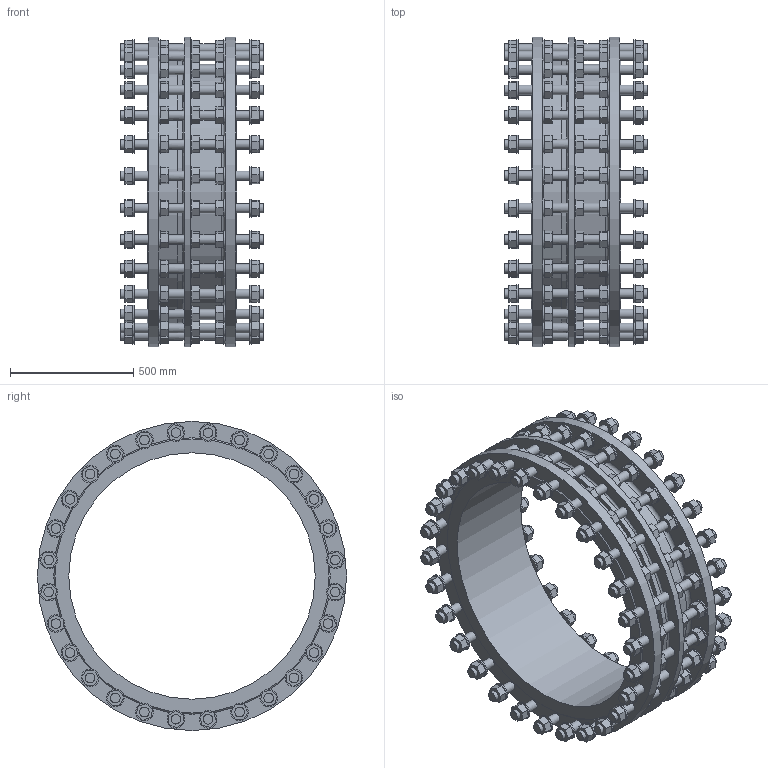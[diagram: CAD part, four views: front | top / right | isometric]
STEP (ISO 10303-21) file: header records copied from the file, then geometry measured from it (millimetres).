
FILE_DESCRIPTION (( 'STEP AP203' ), '1' );
FILE_NAME ('O_265_910_DN1000_1XXXXX00_L=365_REV01.step', '2024-10-11T10:58:10', ( '' ), ( '' ), 'SwSTEP 2.0', 'SolidWorks 2022', '' );
FILE_SCHEMA (( 'CONFIG_CONTROL_DESIGN' ));
Length unit declared in the file: millimetre
Products named in the file (1): O_265_910_DN1000_1XXXXX00_L=365_REV01
Bounding box: 580 x 1255 x 1255 mm (x, y, z)
Volume: 103273777.2 mm3; surface area: 6962192.9 mm2
Topology: 1 solids, 1 shells, 1601 faces, 3811 edges, 2587 vertices
Faces by surface type: plane 1280, cylinder 316, cone 3, torus 2
Full cylindrical faces by diameter (mm): 39 x168, 72 x140, 1000 x1, 1036 x1, 1082 x1, 1255 x3
Entity records: 44140 total; most frequent: CARTESIAN_POINT 8273, DIRECTION 7165, ORIENTED_EDGE 6644, EDGE_CURVE 3322, VECTOR 2627, LINE 2627, VERTEX_POINT 2417, EDGE_LOOP 2409
